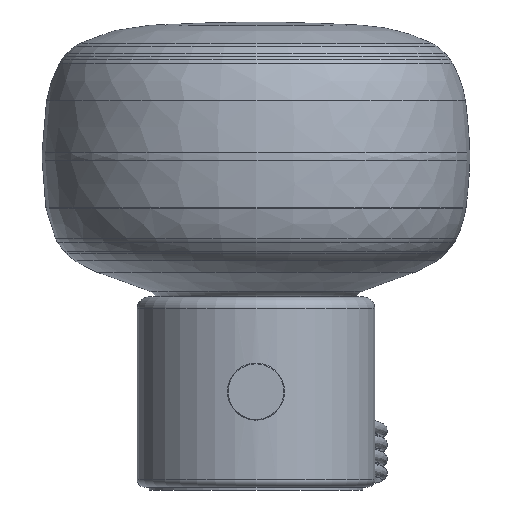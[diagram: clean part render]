
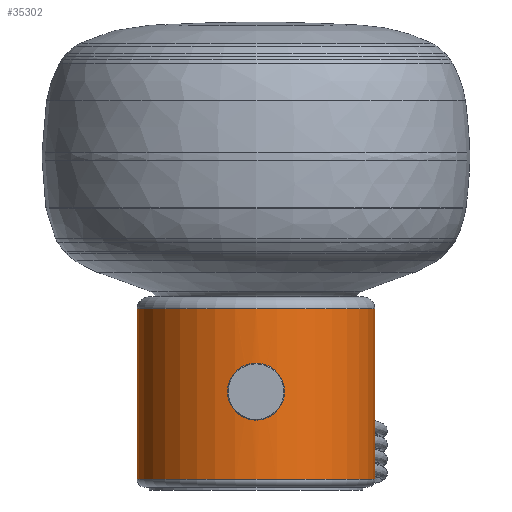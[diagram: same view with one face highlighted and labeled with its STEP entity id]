
A CAD part, front view. The second image highlights one B-rep face of the part: STEP entity #35302.
In plain terms, the highlighted cylindrical face has radius 63.5 mm (diameter 127 mm), a full revolution.
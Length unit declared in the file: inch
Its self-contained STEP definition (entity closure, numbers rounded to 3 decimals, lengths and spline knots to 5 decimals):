
#168=FACE_BOUND('',#6141,.T.);
#169=FACE_BOUND('',#6142,.T.);
#488=B_SPLINE_CURVE_WITH_KNOTS('',3,(#51554,#51555,#51556,#51557,#51558,
#51559,#51560,#51561,#51562,#51563,#51564,#51565,#51566,#51567,#51568,#51569,
#51570,#51571,#51572,#51573,#51574,#51575,#51576,#51577,#51578,#51579,#51580,
#51581,#51582,#51583,#51584,#51585,#51586,#51587),.UNSPECIFIED.,.T.,.F.,
(4,2,2,2,2,2,2,2,2,2,2,2,2,2,2,2,4),(0.,0.19144,0.38288,
0.57429,0.7657,0.95719,1.14868,
1.34013,1.53157,1.72302,1.91447,2.10596,
2.29745,2.48886,2.68027,2.87171,3.06315),
 .UNSPECIFIED.);
#489=B_SPLINE_CURVE_WITH_KNOTS('',3,(#51590,#51591,#51592,#51593,#51594,
#51595,#51596,#51597,#51598,#51599,#51600,#51601,#51602,#51603,#51604,#51605,
#51606,#51607),.UNSPECIFIED.,.F.,.F.,(4,2,2,2,2,2,2,2,4),(0.,0.14355,
0.28711,0.43066,0.57422,0.71777,
0.86133,1.00488,1.14844),.UNSPECIFIED.);
#490=B_SPLINE_CURVE_WITH_KNOTS('',3,(#51608,#51609,#51610,#51611,#51612,
#51613,#51614,#51615,#51616,#51617,#51618,#51619,#51620,#51621,#51622,#51623,
#51624,#51625),.UNSPECIFIED.,.F.,.F.,(4,2,2,2,2,2,2,2,4),(1.14844,
1.29199,1.43555,1.5791,1.72266,1.86621,
2.00976,2.15332,2.29687),.UNSPECIFIED.);
#4070=FACE_OUTER_BOUND('',#6140,.T.);
#6140=EDGE_LOOP('',(#24792,#24793,#24794,#24795));
#6141=EDGE_LOOP('',(#24796));
#6142=EDGE_LOOP('',(#24797,#24798));
#8349=LINE('',#51552,#11644);
#11644=VECTOR('',#39663,2.5);
#14901=CIRCLE('',#37634,2.5);
#14904=CIRCLE('',#37638,2.5);
#15440=VERTEX_POINT('',#51544);
#15442=VERTEX_POINT('',#51550);
#15443=VERTEX_POINT('',#51553);
#15444=VERTEX_POINT('',#51588);
#15445=VERTEX_POINT('',#51589);
#19090=EDGE_CURVE('',#15440,#15440,#14901,.T.);
#19093=EDGE_CURVE('',#15442,#15442,#14904,.T.);
#19094=EDGE_CURVE('',#15442,#15440,#8349,.T.);
#19095=EDGE_CURVE('',#15443,#15443,#488,.F.);
#19096=EDGE_CURVE('',#15444,#15445,#489,.T.);
#19097=EDGE_CURVE('',#15445,#15444,#490,.T.);
#24792=ORIENTED_EDGE('',*,*,#19093,.F.);
#24793=ORIENTED_EDGE('',*,*,#19094,.T.);
#24794=ORIENTED_EDGE('',*,*,#19090,.F.);
#24795=ORIENTED_EDGE('',*,*,#19094,.F.);
#24796=ORIENTED_EDGE('',*,*,#19095,.T.);
#24797=ORIENTED_EDGE('',*,*,#19096,.T.);
#24798=ORIENTED_EDGE('',*,*,#19097,.T.);
#35102=CYLINDRICAL_SURFACE('',#37637,2.5);
#35302=ADVANCED_FACE('',(#4070,#168,#169),#35102,.T.);
#37634=AXIS2_PLACEMENT_3D('',#51545,#39653,#39654);
#37637=AXIS2_PLACEMENT_3D('',#51549,#39659,#39660);
#37638=AXIS2_PLACEMENT_3D('',#51551,#39661,#39662);
#39653=DIRECTION('center_axis',(0.,0.,-1.));
#39654=DIRECTION('ref_axis',(1.,0.,0.));
#39659=DIRECTION('center_axis',(0.,0.,1.));
#39660=DIRECTION('ref_axis',(1.,0.,0.));
#39661=DIRECTION('center_axis',(0.,0.,1.));
#39662=DIRECTION('ref_axis',(1.,0.,0.));
#39663=DIRECTION('',(0.,0.,-1.));
#51544=CARTESIAN_POINT('',(-2.5,0.,0.16));
#51545=CARTESIAN_POINT('Origin',(0.,0.,0.16));
#51549=CARTESIAN_POINT('Origin',(0.,0.,0.));
#51550=CARTESIAN_POINT('',(-2.5,0.,3.75));
#51551=CARTESIAN_POINT('Origin',(0.,0.,3.75));
#51552=CARTESIAN_POINT('',(-2.5,0.,0.));
#51553=CARTESIAN_POINT('',(-0.18297,2.4933,0.60024));
#51554=CARTESIAN_POINT('Ctrl Pts',(-0.18297,2.4933,
0.60024));
#51555=CARTESIAN_POINT('Ctrl Pts',(-0.18297,2.4933,
0.62537));
#51556=CARTESIAN_POINT('Ctrl Pts',(-0.17795,2.49368,
0.65216));
#51557=CARTESIAN_POINT('Ctrl Pts',(-0.15753,2.49505,
0.70143));
#51558=CARTESIAN_POINT('Ctrl Pts',(-0.14214,2.49602,0.72392));
#51559=CARTESIAN_POINT('Ctrl Pts',(-0.10663,2.49779,0.75942));
#51560=CARTESIAN_POINT('Ctrl Pts',(-0.08415,2.49871,
0.77481));
#51561=CARTESIAN_POINT('Ctrl Pts',(-0.03488,2.49988,
0.79522));
#51562=CARTESIAN_POINT('Ctrl Pts',(-0.00809,2.50011,
0.80024));
#51563=CARTESIAN_POINT('Ctrl Pts',(0.04216,2.49977,
0.80024));
#51564=CARTESIAN_POINT('Ctrl Pts',(0.06896,2.49917,
0.79522));
#51565=CARTESIAN_POINT('Ctrl Pts',(0.11823,2.49732,0.7748));
#51566=CARTESIAN_POINT('Ctrl Pts',(0.14071,2.4961,0.75941));
#51567=CARTESIAN_POINT('Ctrl Pts',(0.17621,2.49385,0.72391));
#51568=CARTESIAN_POINT('Ctrl Pts',(0.1916,2.49267,0.70143));
#51569=CARTESIAN_POINT('Ctrl Pts',(0.21201,2.49102,0.65216));
#51570=CARTESIAN_POINT('Ctrl Pts',(0.21703,2.49056,0.62537));
#51571=CARTESIAN_POINT('Ctrl Pts',(0.21703,2.49056,0.57512));
#51572=CARTESIAN_POINT('Ctrl Pts',(0.21201,2.49102,0.54833));
#51573=CARTESIAN_POINT('Ctrl Pts',(0.1916,2.49267,0.49906));
#51574=CARTESIAN_POINT('Ctrl Pts',(0.17621,2.49385,0.47658));
#51575=CARTESIAN_POINT('Ctrl Pts',(0.14071,2.4961,0.44108));
#51576=CARTESIAN_POINT('Ctrl Pts',(0.11823,2.49732,0.42568));
#51577=CARTESIAN_POINT('Ctrl Pts',(0.06896,2.49917,
0.40527));
#51578=CARTESIAN_POINT('Ctrl Pts',(0.04216,2.49977,
0.40024));
#51579=CARTESIAN_POINT('Ctrl Pts',(-0.00809,2.50011,
0.40024));
#51580=CARTESIAN_POINT('Ctrl Pts',(-0.03488,2.49988,
0.40526));
#51581=CARTESIAN_POINT('Ctrl Pts',(-0.08415,2.49871,
0.42567));
#51582=CARTESIAN_POINT('Ctrl Pts',(-0.10663,2.49779,0.44106));
#51583=CARTESIAN_POINT('Ctrl Pts',(-0.14214,2.49602,0.47657));
#51584=CARTESIAN_POINT('Ctrl Pts',(-0.15753,2.49505,
0.49905));
#51585=CARTESIAN_POINT('Ctrl Pts',(-0.17795,2.49368,
0.54833));
#51586=CARTESIAN_POINT('Ctrl Pts',(-0.18297,2.4933,
0.57512));
#51587=CARTESIAN_POINT('Ctrl Pts',(-0.18297,2.4933,
0.60024));
#51588=CARTESIAN_POINT('',(0.15,-2.4955,2.));
#51589=CARTESIAN_POINT('',(-0.15,-2.4955,2.));
#51590=CARTESIAN_POINT('Ctrl Pts',(0.15,-2.4955,2.));
#51591=CARTESIAN_POINT('Ctrl Pts',(0.15,-2.4955,1.98116));
#51592=CARTESIAN_POINT('Ctrl Pts',(0.14623,-2.49573,
1.96107));
#51593=CARTESIAN_POINT('Ctrl Pts',(0.13092,-2.49658,
1.92411));
#51594=CARTESIAN_POINT('Ctrl Pts',(0.11938,-2.49718,
1.90725));
#51595=CARTESIAN_POINT('Ctrl Pts',(0.09275,-2.49831,
1.88062));
#51596=CARTESIAN_POINT('Ctrl Pts',(0.07589,-2.49892,
1.86908));
#51597=CARTESIAN_POINT('Ctrl Pts',(0.03893,-2.49977,
1.85377));
#51598=CARTESIAN_POINT('Ctrl Pts',(0.01884,-2.5,
1.85));
#51599=CARTESIAN_POINT('Ctrl Pts',(-0.01884,-2.5,
1.85));
#51600=CARTESIAN_POINT('Ctrl Pts',(-0.03893,-2.49977,
1.85377));
#51601=CARTESIAN_POINT('Ctrl Pts',(-0.07589,-2.49892,
1.86908));
#51602=CARTESIAN_POINT('Ctrl Pts',(-0.09275,-2.49831,
1.88062));
#51603=CARTESIAN_POINT('Ctrl Pts',(-0.11938,-2.49718,
1.90725));
#51604=CARTESIAN_POINT('Ctrl Pts',(-0.13092,-2.49658,
1.92411));
#51605=CARTESIAN_POINT('Ctrl Pts',(-0.14623,-2.49573,
1.96107));
#51606=CARTESIAN_POINT('Ctrl Pts',(-0.15,-2.4955,1.98116));
#51607=CARTESIAN_POINT('Ctrl Pts',(-0.15,-2.4955,2.));
#51608=CARTESIAN_POINT('Ctrl Pts',(-0.15,-2.4955,2.));
#51609=CARTESIAN_POINT('Ctrl Pts',(-0.15,-2.4955,2.01884));
#51610=CARTESIAN_POINT('Ctrl Pts',(-0.14623,-2.49573,
2.03893));
#51611=CARTESIAN_POINT('Ctrl Pts',(-0.13092,-2.49658,
2.07589));
#51612=CARTESIAN_POINT('Ctrl Pts',(-0.11938,-2.49718,
2.09275));
#51613=CARTESIAN_POINT('Ctrl Pts',(-0.09275,-2.49831,
2.11938));
#51614=CARTESIAN_POINT('Ctrl Pts',(-0.07589,-2.49892,
2.13092));
#51615=CARTESIAN_POINT('Ctrl Pts',(-0.03893,-2.49977,
2.14623));
#51616=CARTESIAN_POINT('Ctrl Pts',(-0.01884,-2.5,
2.15));
#51617=CARTESIAN_POINT('Ctrl Pts',(0.01884,-2.5,
2.15));
#51618=CARTESIAN_POINT('Ctrl Pts',(0.03893,-2.49977,
2.14623));
#51619=CARTESIAN_POINT('Ctrl Pts',(0.07589,-2.49892,
2.13092));
#51620=CARTESIAN_POINT('Ctrl Pts',(0.09275,-2.49831,
2.11938));
#51621=CARTESIAN_POINT('Ctrl Pts',(0.11938,-2.49718,
2.09275));
#51622=CARTESIAN_POINT('Ctrl Pts',(0.13092,-2.49658,
2.07589));
#51623=CARTESIAN_POINT('Ctrl Pts',(0.14623,-2.49573,
2.03893));
#51624=CARTESIAN_POINT('Ctrl Pts',(0.15,-2.4955,2.01884));
#51625=CARTESIAN_POINT('Ctrl Pts',(0.15,-2.4955,2.));
